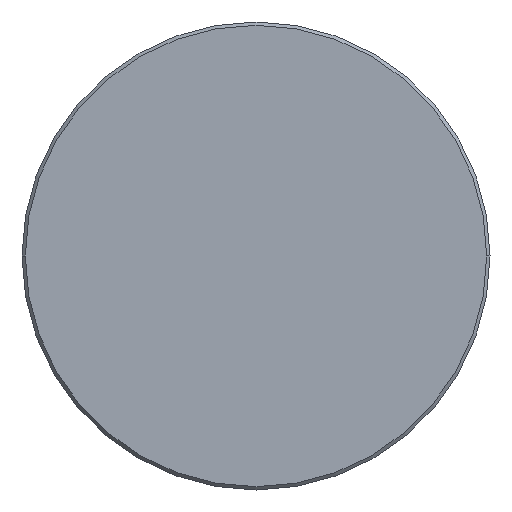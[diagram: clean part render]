
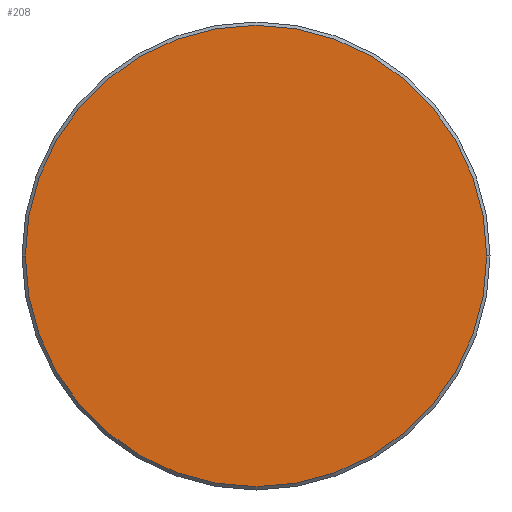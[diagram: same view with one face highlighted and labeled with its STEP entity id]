
A CAD part, left-side view. The second image highlights one B-rep face of the part: STEP entity #208.
In plain terms, the highlighted planar face has unit normal (-1, 0, 0).
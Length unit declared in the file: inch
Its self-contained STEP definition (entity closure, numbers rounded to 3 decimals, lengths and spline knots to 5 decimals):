
#22 = VERTEX_POINT ( 'NONE', #162 ) ;
#28 = EDGE_LOOP ( 'NONE', ( #175, #132 ) ) ;
#31 = DIRECTION ( 'NONE',  ( 0., -1., 0. ) ) ;
#43 = CARTESIAN_POINT ( 'NONE',  ( 0., 0., 0. ) ) ;
#51 = AXIS2_PLACEMENT_3D ( 'NONE', #43, #314, #143 ) ;
#110 = PLANE ( 'NONE',  #51 ) ;
#112 = DIRECTION ( 'NONE',  ( -1., 0., 0. ) ) ;
#132 = ORIENTED_EDGE ( 'NONE', *, *, #177, .T. ) ;
#143 = DIRECTION ( 'NONE',  ( 0., -1., 0. ) ) ;
#151 = DIRECTION ( 'NONE',  ( -1., 0., 0. ) ) ;
#156 = FACE_OUTER_BOUND ( 'NONE', #28, .T. ) ;
#162 = CARTESIAN_POINT ( 'NONE',  ( 0., -0.27725, 0. ) ) ;
#175 = ORIENTED_EDGE ( 'NONE', *, *, #326, .T. ) ;
#177 = EDGE_CURVE ( 'NONE', #22, #332, #219, .T. ) ;
#185 = AXIS2_PLACEMENT_3D ( 'NONE', #320, #151, #31 ) ;
#196 = CARTESIAN_POINT ( 'NONE',  ( 0., 0., 0. ) ) ;
#208 = ADVANCED_FACE ( 'NONE', ( #156 ), #110, .T. ) ;
#219 = CIRCLE ( 'NONE', #351, 0.27725 ) ;
#258 = DIRECTION ( 'NONE',  ( 0., -1., 0. ) ) ;
#286 = CIRCLE ( 'NONE', #185, 0.27725 ) ;
#294 = CARTESIAN_POINT ( 'NONE',  ( 0., 0.27725, 0. ) ) ;
#314 = DIRECTION ( 'NONE',  ( -1., 0., 0. ) ) ;
#320 = CARTESIAN_POINT ( 'NONE',  ( 0., 0., 0. ) ) ;
#326 = EDGE_CURVE ( 'NONE', #332, #22, #286, .T. ) ;
#332 = VERTEX_POINT ( 'NONE', #294 ) ;
#351 = AXIS2_PLACEMENT_3D ( 'NONE', #196, #112, #258 ) ;
